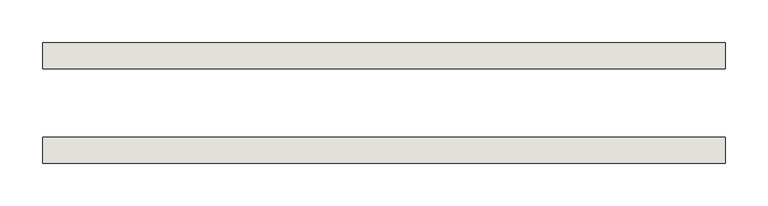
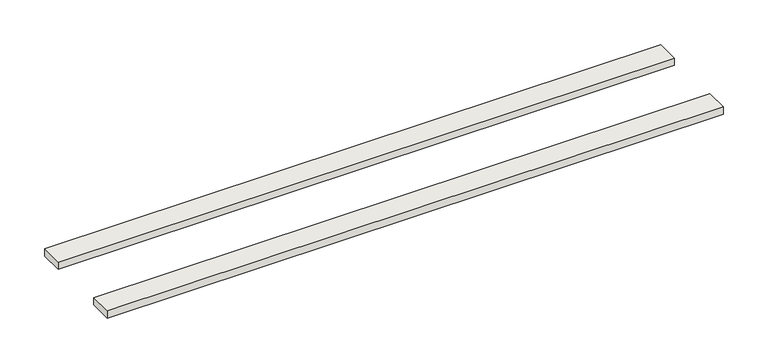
"""IFC4 building model written with IfcOpenShell, lengths in millimetres: wall geometry, Sealent : Sealent."""

from ifc_helpers import new_model, si_unit, origin, origin_with_axes, place, context, project, spatial, polyline, outline, extrude, source, transform, mapped, element, save


def wall_cee2ec5f(model_context):
    return source(origin(), model_context, "Body", "SweptSolid", [
        extrude(outline(polyline([(17896.0136184, 15013.3863455), (18691.0136184, 15013.3863455), (18691.0136184, 14983.3863455), (17896.0136184, 14983.3863455), (17896.0136184, 15013.3863455)])), origin_with_axes(), (0.0, 0.0, 1.0), 10.0),
        extrude(outline(polyline([(17896.0136184, 14903.3863455), (18691.0136184, 14903.3863455), (18691.0136184, 14873.3863455), (17896.0136184, 14873.3863455), (17896.0136184, 14903.3863455)])), origin_with_axes(), (0.0, 0.0, 1.0), 10.0),
    ])


if __name__ == "__main__":
    model = new_model("IFC4")
    model_context = context("Model", 3, world=origin())
    ifc_project = project(units=[si_unit("LENGTHUNIT", "METRE", prefix="MILLI")], contexts=[model_context])
    site = spatial("IfcSite", under=ifc_project)
    building = spatial("IfcBuilding", under=site)
    placement = place(None, origin())
    wall_shape = wall_cee2ec5f(model_context)
    element("IfcWall", 1, ObjectType="Sealent : Sealent", at=placement, inside=building, context=model_context, shape_type="MappedRepresentation", body=[
        mapped(wall_shape, transform((0.0, 0.0, 0.0), x_axis=(1.0, 0.0, 0.0), y_axis=(0.0, 1.0, 0.0), z_axis=(0.0, 0.0, 1.0))),
    ])
    save(model, "model.ifc")
